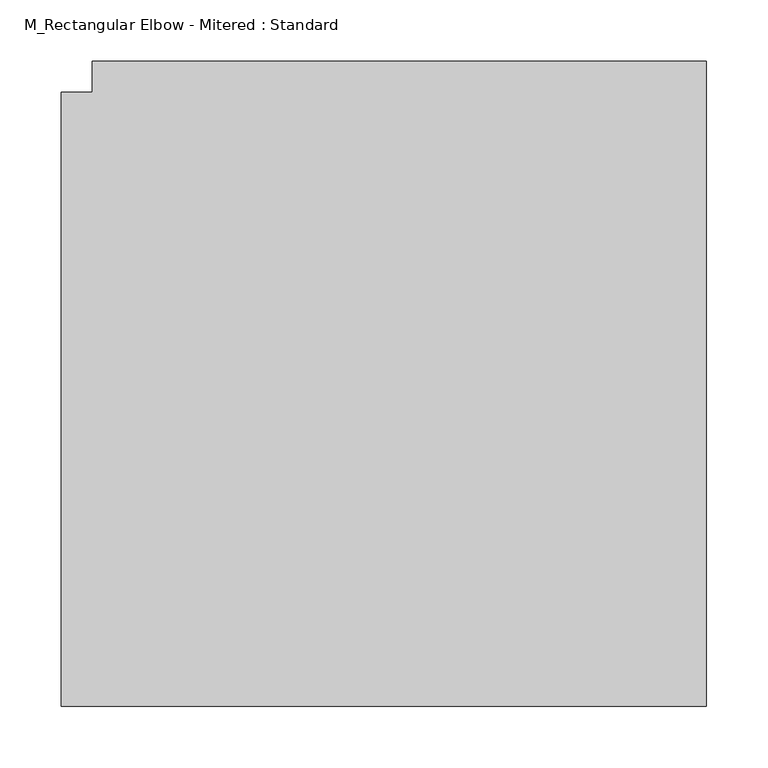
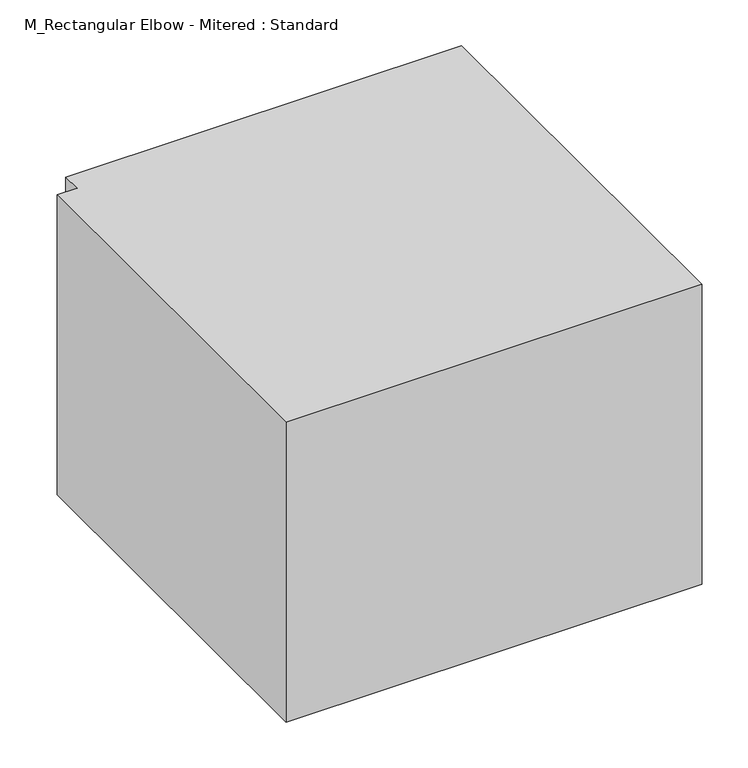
"""IFC4 building model written with IfcOpenShell, lengths in millimetres: duct fitting geometry, M_Rectangular Elbow - Mitered : Standard."""

from ifc_helpers import new_model, si_unit, frame, origin, place, context, project, spatial, polyline, outline, extrude, source, transform, mapped, element, save


def m_rectangular_elbow_mitered_standard_f59a5ba7(model_context):
    return source(origin(), model_context, "Body", "SweptSolid", [
        extrude(outline(polyline([(-275.0, -250.0), (-275.0, 250.0), (-250.0, 250.0), (-250.0, 275.0), (250.0, 275.0), (250.0, -250.0), (-275.0, -250.0)])), frame((0.0, 0.0, -200.0), z_axis=(0.0, 0.0, 1.0), x_axis=(1.0, 0.0, 0.0)), (0.0, 0.0, 1.0), 400.0),
        extrude(outline(polyline([(-275.0, -250.0), (-275.0, 250.0), (-250.0, 250.0), (-250.0, 275.0), (250.0, 275.0), (250.0, -250.0), (-275.0, -250.0)])), frame((0.0, 0.0, -200.0), z_axis=(0.0, 0.0, 1.0), x_axis=(1.0, 0.0, 0.0)), (0.0, 0.0, 1.0), 400.0),
        extrude(outline(polyline([(-275.0, -250.0), (-275.0, 250.0), (-250.0, 250.0), (-250.0, 275.0), (250.0, 275.0), (250.0, -250.0), (-275.0, -250.0)])), frame((0.0, 0.0, -200.0), z_axis=(0.0, 0.0, 1.0), x_axis=(1.0, 0.0, 0.0)), (0.0, 0.0, 1.0), 400.0),
    ])


if __name__ == "__main__":
    model = new_model("IFC4")
    model_context = context("Model", 3, world=origin())
    ifc_project = project(units=[si_unit("LENGTHUNIT", "METRE", prefix="MILLI")], contexts=[model_context])
    site = spatial("IfcSite", under=ifc_project)
    building = spatial("IfcBuilding", under=site)
    placement = place(None, origin())
    m_rectangular_elbow_mitered_standard_shape = m_rectangular_elbow_mitered_standard_f59a5ba7(model_context)
    element("IfcDuctFitting", 1, ObjectType="M_Rectangular Elbow - Mitered : Standard", at=placement, inside=building, context=model_context, shape_type="MappedRepresentation", body=[
        mapped(m_rectangular_elbow_mitered_standard_shape, transform((0.0, 0.0, 0.0), x_axis=(1.0, 0.0, 0.0), y_axis=(0.0, 1.0, 0.0), z_axis=(0.0, 0.0, 1.0))),
    ])
    save(model, "model.ifc")
